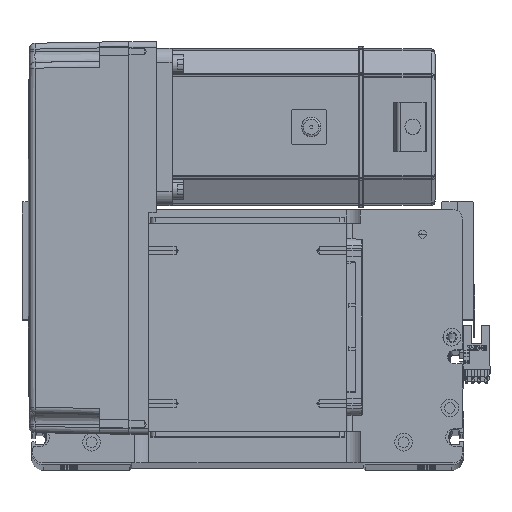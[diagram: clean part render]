
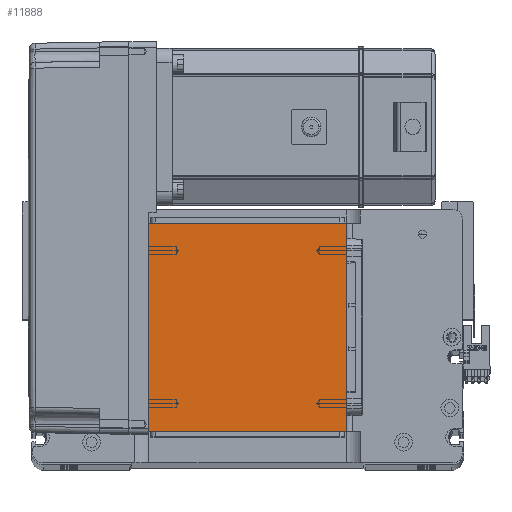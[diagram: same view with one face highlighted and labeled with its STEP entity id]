
A CAD part, top view. The second image highlights one B-rep face of the part: STEP entity #11888.
In plain terms, the highlighted planar face has unit normal (0, 0, 1).
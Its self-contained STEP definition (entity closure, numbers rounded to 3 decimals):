
#203 = EDGE_CURVE ( 'NONE', #1254, #48581, #41264, .T. ) ;
#1009 = VERTEX_POINT ( 'NONE', #42466 ) ;
#1254 = VERTEX_POINT ( 'NONE', #3849 ) ;
#2077 = CARTESIAN_POINT ( 'NONE',  ( -50.5, 122., 115. ) ) ;
#3849 = CARTESIAN_POINT ( 'NONE',  ( -50.5, 16., 115. ) ) ;
#4027 = ORIENTED_EDGE ( 'NONE', *, *, #203, .T. ) ;
#5596 = EDGE_CURVE ( 'NONE', #48581, #14599, #37398, .T. ) ;
#11888 = ADVANCED_FACE ( 'NONE', ( #46329 ), #33209, .T. ) ;
#12234 = DIRECTION ( 'NONE',  ( 0., 0., 1. ) ) ;
#13802 = VECTOR ( 'NONE', #35682, 1000. ) ;
#14599 = VERTEX_POINT ( 'NONE', #30237 ) ;
#23989 = VECTOR ( 'NONE', #31320, 1000. ) ;
#25698 = ORIENTED_EDGE ( 'NONE', *, *, #5596, .T. ) ;
#26770 = ORIENTED_EDGE ( 'NONE', *, *, #29001, .T. ) ;
#29001 = EDGE_CURVE ( 'NONE', #1009, #1254, #35140, .T. ) ;
#29189 = ORIENTED_EDGE ( 'NONE', *, *, #51842, .T. ) ;
#29348 = CARTESIAN_POINT ( 'NONE',  ( 0., 0., 115. ) ) ;
#30204 = VECTOR ( 'NONE', #50746, 1000. ) ;
#30237 = CARTESIAN_POINT ( 'NONE',  ( 50.5, 122., 115. ) ) ;
#31320 = DIRECTION ( 'NONE',  ( 0., -1., 0. ) ) ;
#31472 = CARTESIAN_POINT ( 'NONE',  ( -50.5, 16., 115. ) ) ;
#33209 = PLANE ( 'NONE',  #38309 ) ;
#35140 = LINE ( 'NONE', #2077, #23989 ) ;
#35682 = DIRECTION ( 'NONE',  ( 1., 0., 0. ) ) ;
#36171 = DIRECTION ( 'NONE',  ( -1., 0., 0. ) ) ;
#37398 = LINE ( 'NONE', #40902, #30204 ) ;
#37960 = LINE ( 'NONE', #52447, #51021 ) ;
#38309 = AXIS2_PLACEMENT_3D ( 'NONE', #29348, #12234, #54220 ) ;
#40902 = CARTESIAN_POINT ( 'NONE',  ( 50.5, 122., 115. ) ) ;
#41264 = LINE ( 'NONE', #31472, #13802 ) ;
#42466 = CARTESIAN_POINT ( 'NONE',  ( -50.5, 122., 115. ) ) ;
#42732 = CARTESIAN_POINT ( 'NONE',  ( 50.5, 16., 115. ) ) ;
#46329 = FACE_OUTER_BOUND ( 'NONE', #52355, .T. ) ;
#48581 = VERTEX_POINT ( 'NONE', #42732 ) ;
#50746 = DIRECTION ( 'NONE',  ( 0., 1., 0. ) ) ;
#51021 = VECTOR ( 'NONE', #36171, 1000. ) ;
#51842 = EDGE_CURVE ( 'NONE', #14599, #1009, #37960, .T. ) ;
#52355 = EDGE_LOOP ( 'NONE', ( #26770, #4027, #25698, #29189 ) ) ;
#52447 = CARTESIAN_POINT ( 'NONE',  ( -50.5, 122., 115. ) ) ;
#54220 = DIRECTION ( 'NONE',  ( 1., 0., 0. ) ) ;
